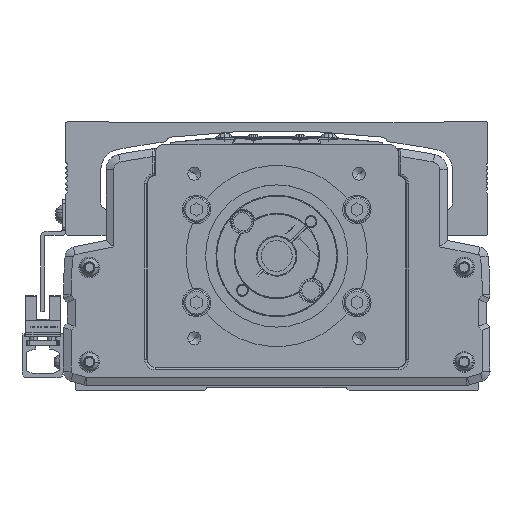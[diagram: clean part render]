
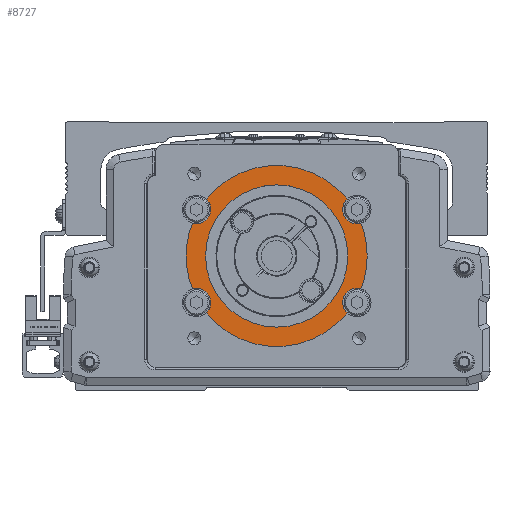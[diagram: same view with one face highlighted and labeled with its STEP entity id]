
A CAD part, front view. The second image highlights one B-rep face of the part: STEP entity #8727.
In plain terms, the highlighted planar face has unit normal (0, -1, 0).
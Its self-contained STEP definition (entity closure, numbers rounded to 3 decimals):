
#8727=ADVANCED_FACE('',(#18572,#18573),#18574,.F.);
#18572=FACE_OUTER_BOUND('',#31951,.T.);
#18573=FACE_BOUND('',#31952,.T.);
#18574=PLANE('',#31953);
#31951=EDGE_LOOP('',(#57737,#57738,#57739,#57740,#57741,#57742,#57743,#57744,#57745,#57746,#57747,#57748,#57749,#57750));
#31952=EDGE_LOOP('',(#57751,#57752));
#31953=AXIS2_PLACEMENT_3D('',#57753,#57754,#57755);
#57737=ORIENTED_EDGE('',*,*,#75658,.F.);
#57738=ORIENTED_EDGE('',*,*,#75107,.T.);
#57739=ORIENTED_EDGE('',*,*,#72218,.T.);
#57740=ORIENTED_EDGE('',*,*,#71970,.F.);
#57741=ORIENTED_EDGE('',*,*,#78909,.F.);
#57742=ORIENTED_EDGE('',*,*,#77965,.T.);
#57743=ORIENTED_EDGE('',*,*,#78910,.F.);
#57744=ORIENTED_EDGE('',*,*,#78911,.F.);
#57745=ORIENTED_EDGE('',*,*,#78912,.T.);
#57746=ORIENTED_EDGE('',*,*,#77206,.T.);
#57747=ORIENTED_EDGE('',*,*,#78913,.F.);
#57748=ORIENTED_EDGE('',*,*,#70477,.F.);
#57749=ORIENTED_EDGE('',*,*,#78914,.T.);
#57750=ORIENTED_EDGE('',*,*,#70758,.F.);
#57751=ORIENTED_EDGE('',*,*,#73765,.F.);
#57752=ORIENTED_EDGE('',*,*,#71457,.F.);
#57753=CARTESIAN_POINT('',(-600.,28.222,0.));
#57754=DIRECTION('',(0.,1.0,0.));
#57755=DIRECTION('',(-1.0,0.,0.));
#70477=EDGE_CURVE('',#84488,#84490,#84491,.T.);
#70758=EDGE_CURVE('',#84972,#84974,#84975,.T.);
#71457=EDGE_CURVE('',#86184,#86186,#86187,.T.);
#71970=EDGE_CURVE('',#87052,#87054,#87055,.T.);
#72218=EDGE_CURVE('',#87475,#87054,#87479,.T.);
#73765=EDGE_CURVE('',#86186,#86184,#90062,.T.);
#75107=EDGE_CURVE('',#92067,#87475,#92068,.T.);
#75658=EDGE_CURVE('',#92067,#84972,#92880,.T.);
#77206=EDGE_CURVE('',#94996,#94998,#95000,.T.);
#77965=EDGE_CURVE('',#95975,#95977,#95979,.T.);
#78909=EDGE_CURVE('',#95975,#87052,#97157,.T.);
#78910=EDGE_CURVE('',#97158,#95977,#97159,.T.);
#78911=EDGE_CURVE('',#97160,#97158,#97161,.T.);
#78912=EDGE_CURVE('',#97160,#94996,#97162,.T.);
#78913=EDGE_CURVE('',#84490,#94998,#97163,.T.);
#78914=EDGE_CURVE('',#84488,#84974,#97164,.T.);
#84488=VERTEX_POINT('',#104468);
#84490=VERTEX_POINT('',#104471);
#84491=CIRCLE('',#104472,5.5);
#84972=VERTEX_POINT('',#105225);
#84974=VERTEX_POINT('',#105228);
#84975=CIRCLE('',#105229,5.5);
#86184=VERTEX_POINT('',#106917);
#86186=VERTEX_POINT('',#106920);
#86187=CIRCLE('',#106921,27.5);
#87052=VERTEX_POINT('',#108122);
#87054=VERTEX_POINT('',#108125);
#87055=CIRCLE('',#108126,5.5);
#87475=VERTEX_POINT('',#108700);
#87479=CIRCLE('',#108705,35.0);
#90062=CIRCLE('',#112374,27.5);
#92067=VERTEX_POINT('',#115407);
#92068=CIRCLE('',#115408,35.0);
#92880=CIRCLE('',#116508,5.5);
#94996=VERTEX_POINT('',#119485);
#94998=VERTEX_POINT('',#119488);
#95000=CIRCLE('',#119491,35.0);
#95975=VERTEX_POINT('',#120910);
#95977=VERTEX_POINT('',#120913);
#95979=CIRCLE('',#120916,35.0);
#97157=CIRCLE('',#122682,5.5);
#97158=VERTEX_POINT('',#122683);
#97159=CIRCLE('',#122684,5.5);
#97160=VERTEX_POINT('',#122685);
#97161=CIRCLE('',#122686,5.5);
#97162=CIRCLE('',#122687,35.0);
#97163=CIRCLE('',#122688,5.5);
#97164=CIRCLE('',#122689,35.0);
#104468=CARTESIAN_POINT('',(-572.777,28.222,21.998));
#104471=CARTESIAN_POINT('',(-574.5,28.222,18.));
#104472=AXIS2_PLACEMENT_3D('',#128849,#128850,#128851);
#105225=CARTESIAN_POINT('',(-625.5,28.222,18.));
#105228=CARTESIAN_POINT('',(-627.223,28.222,21.998));
#105229=AXIS2_PLACEMENT_3D('',#129203,#129204,#129205);
#106917=CARTESIAN_POINT('',(-627.5,28.222,0.));
#106920=CARTESIAN_POINT('',(-572.5,28.222,0.));
#106921=AXIS2_PLACEMENT_3D('',#130200,#130201,#130202);
#108122=CARTESIAN_POINT('',(-625.5,28.222,-18.));
#108125=CARTESIAN_POINT('',(-632.6,28.222,-12.738));
#108126=AXIS2_PLACEMENT_3D('',#130875,#130876,#130877);
#108700=CARTESIAN_POINT('',(-635.,28.222,0.));
#108705=AXIS2_PLACEMENT_3D('',#131308,#131309,#131310);
#112374=AXIS2_PLACEMENT_3D('',#133417,#133418,#133419);
#115407=CARTESIAN_POINT('',(-632.6,28.222,12.738));
#115408=AXIS2_PLACEMENT_3D('',#135180,#135181,#135182);
#116508=AXIS2_PLACEMENT_3D('',#135951,#135952,#135953);
#119485=CARTESIAN_POINT('',(-565.,28.222,0.));
#119488=CARTESIAN_POINT('',(-567.4,28.222,12.738));
#119491=AXIS2_PLACEMENT_3D('',#137898,#137899,#137900);
#120910=CARTESIAN_POINT('',(-627.223,28.222,-21.998));
#120913=CARTESIAN_POINT('',(-572.777,28.222,-21.998));
#120916=AXIS2_PLACEMENT_3D('',#138749,#138750,#138751);
#122682=AXIS2_PLACEMENT_3D('',#139762,#139763,#139764);
#122683=CARTESIAN_POINT('',(-574.5,28.222,-18.));
#122684=AXIS2_PLACEMENT_3D('',#139765,#139766,#139767);
#122685=CARTESIAN_POINT('',(-567.4,28.222,-12.738));
#122686=AXIS2_PLACEMENT_3D('',#139768,#139769,#139770);
#122687=AXIS2_PLACEMENT_3D('',#139771,#139772,#139773);
#122688=AXIS2_PLACEMENT_3D('',#139774,#139775,#139776);
#122689=AXIS2_PLACEMENT_3D('',#139777,#139778,#139779);
#128849=CARTESIAN_POINT('',(-569.,28.222,18.));
#128850=DIRECTION('',(0.,-1.0,0.));
#128851=DIRECTION('',(1.0,0.,0.));
#129203=CARTESIAN_POINT('',(-631.,28.222,18.));
#129204=DIRECTION('',(0.,-1.0,0.));
#129205=DIRECTION('',(-1.0,0.,0.));
#130200=CARTESIAN_POINT('',(-600.,28.222,0.));
#130201=DIRECTION('',(0.,-1.0,0.));
#130202=DIRECTION('',(-1.0,0.,0.));
#130875=CARTESIAN_POINT('',(-631.,28.222,-18.));
#130876=DIRECTION('',(0.,-1.0,0.));
#130877=DIRECTION('',(-1.0,0.,0.));
#131308=CARTESIAN_POINT('',(-600.,28.222,0.));
#131309=DIRECTION('',(0.,-1.0,0.));
#131310=DIRECTION('',(-1.0,0.,0.));
#133417=CARTESIAN_POINT('',(-600.,28.222,0.));
#133418=DIRECTION('',(0.,-1.0,0.));
#133419=DIRECTION('',(-1.0,0.,0.));
#135180=CARTESIAN_POINT('',(-600.,28.222,0.));
#135181=DIRECTION('',(0.,-1.0,0.));
#135182=DIRECTION('',(-1.0,0.,0.));
#135951=CARTESIAN_POINT('',(-631.,28.222,18.));
#135952=DIRECTION('',(0.,-1.0,0.));
#135953=DIRECTION('',(-1.0,0.,0.));
#137898=CARTESIAN_POINT('',(-600.,28.222,0.));
#137899=DIRECTION('',(0.,-1.0,0.));
#137900=DIRECTION('',(-1.0,0.,0.));
#138749=CARTESIAN_POINT('',(-600.,28.222,0.));
#138750=DIRECTION('',(0.,-1.0,0.));
#138751=DIRECTION('',(-1.0,0.,0.));
#139762=CARTESIAN_POINT('',(-631.,28.222,-18.));
#139763=DIRECTION('',(0.,-1.0,0.));
#139764=DIRECTION('',(-1.0,0.,0.));
#139765=CARTESIAN_POINT('',(-569.,28.222,-18.));
#139766=DIRECTION('',(0.,-1.0,0.));
#139767=DIRECTION('',(1.0,0.,0.));
#139768=CARTESIAN_POINT('',(-569.,28.222,-18.));
#139769=DIRECTION('',(0.,-1.0,0.));
#139770=DIRECTION('',(1.0,0.,0.));
#139771=CARTESIAN_POINT('',(-600.,28.222,0.));
#139772=DIRECTION('',(0.,-1.0,0.));
#139773=DIRECTION('',(-1.0,0.,0.));
#139774=CARTESIAN_POINT('',(-569.,28.222,18.));
#139775=DIRECTION('',(0.,-1.0,0.));
#139776=DIRECTION('',(1.0,0.,0.));
#139777=CARTESIAN_POINT('',(-600.,28.222,0.));
#139778=DIRECTION('',(0.,-1.0,0.));
#139779=DIRECTION('',(-1.0,0.,0.));
